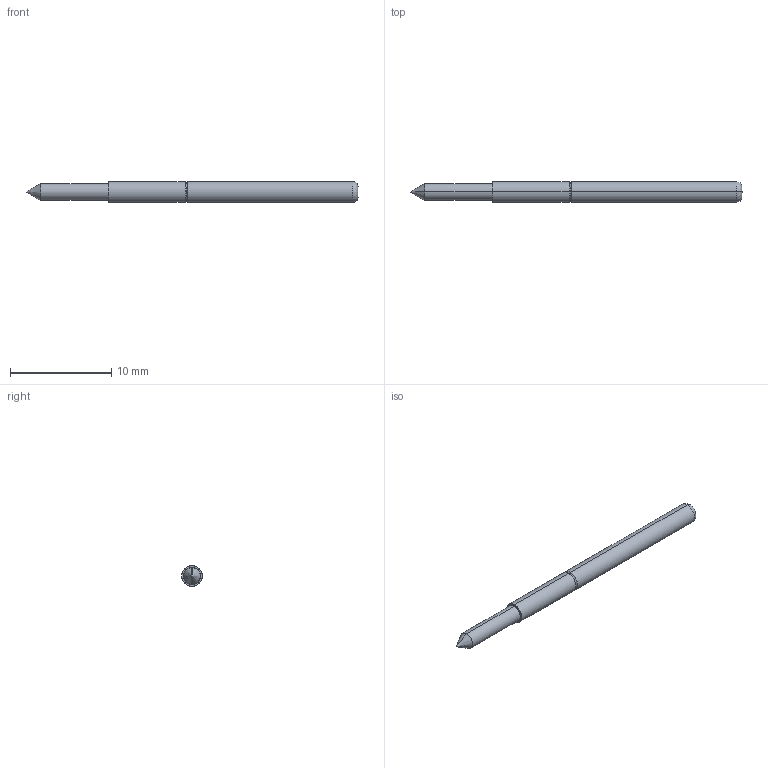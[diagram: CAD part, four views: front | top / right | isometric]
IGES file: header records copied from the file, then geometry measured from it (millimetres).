
Start section: SolidWorks IGES file using analytic representation for surfaces
Global section: file name: O:\PYLON\IGES FILES\P2665\P2665G-1C1S.IGS; native system: SolidWorks 2015; preprocessor: SolidWorks 2015; author: kgolden; date: 171019.132710; units: inch
Bounding box: 32.76 x 2.03 x 2.03 mm (x, y, z)
Surface area: 209.5 mm2 (no closed solid volume)
Topology: 0 solids, 0 shells, 18 faces, 128 edges, 126 vertices
Faces by surface type: revolution 10, bspline 8
